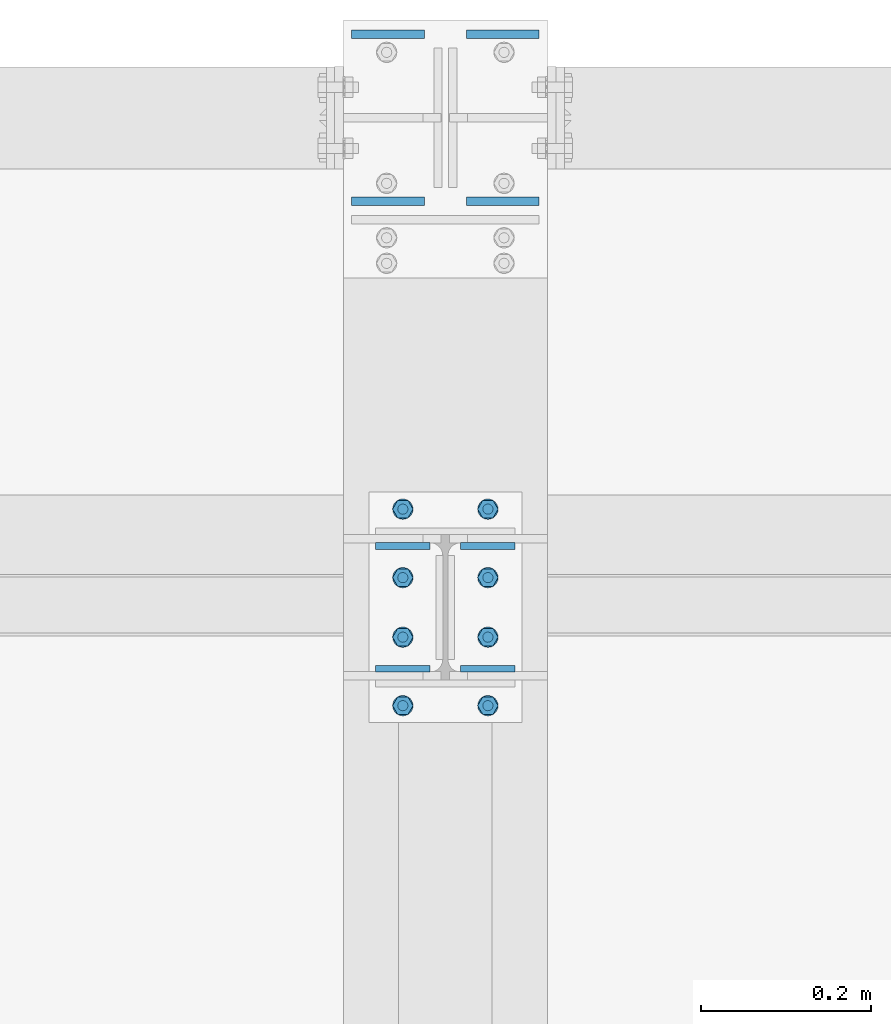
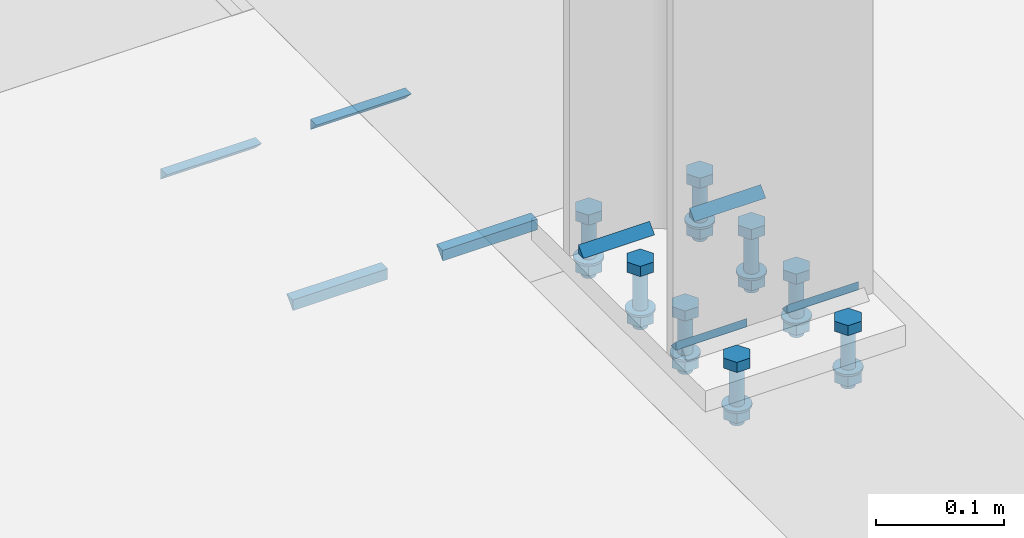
# One storey, part 47 of 66: 32 mechanical fasteners, 14 fasteners.
"""IFC4 building model written with IfcOpenShell, lengths in metres."""

from ifc_helpers import new_model, si_unit, frame, origin_with_axes, place, context, project, spatial, polyline, outline, extrude, type_object, element, save


model = new_model("IFC4")

# Units and contexts
model_context = context("Model", 3, precision=1e-05, world=origin_with_axes())
ifc_project = project(units=[si_unit("LENGTHUNIT", "METRE"), si_unit("AREAUNIT", "SQUARE_METRE"), si_unit("VOLUMEUNIT", "CUBIC_METRE"), si_unit("MASSUNIT", "GRAM", prefix="KILO"), si_unit("TIMEUNIT", "SECOND"), si_unit("PLANEANGLEUNIT", "RADIAN"), si_unit("SOLIDANGLEUNIT", "STERADIAN"), si_unit("THERMODYNAMICTEMPERATUREUNIT", "DEGREE_CELSIUS")], contexts=[model_context])

# Site, building, storey
placement_1 = place(None, origin_with_axes())
site = spatial("IfcSite", under=ifc_project, at=placement_1, Name="Italia", CompositionType="ELEMENT")
building = spatial("IfcBuilding", under=site, at=placement_1, Name="Uffici", CompositionType="ELEMENT")
storey_placement = place(None, frame((0.0, 0.0, 3.299999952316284), z_axis=(0.0, 0.0, 1.0), x_axis=(1.0, 0.0, 0.0)))
storey = spatial("IfcBuildingStorey", under=building, at=storey_placement, Name="Storey 1", CompositionType="ELEMENT", Elevation=3.299999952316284)

# Fasteners
fastener_type_1 = type_object("IfcFastenerType", Name="Collegamento 0108_0208", PredefinedType="WELD")
placement_2 = place(placement_1, origin_with_axes())
fastener_1_placement = place(placement_2, origin_with_axes())
element("IfcFastener", 1, at=fastener_1_placement, inside=storey, type_object=fastener_type_1, Name="Collegamento 0108_0208", context=model_context, shape_type="SweptSolid", body=[
    extrude(outline(polyline([(0.0, 0.0), (0.00792837, 0.00817347), (0.00792837, 0.0), (0.0, 0.0)])), frame((6.77295, 4.88262, 3.31995), z_axis=(1.0, 0.0, 0.0), x_axis=(0.0, 1.0, 0.0)), (0.0, 0.0, 1.0), 0.0641007),
])
fastener_type_2 = type_object("IfcFastenerType", Name="Collegamento 0108_0208", PredefinedType="WELD")
fastener_2_placement = place(placement_2, origin_with_axes())
element("IfcFastener", 2, at=fastener_2_placement, inside=storey, type_object=fastener_type_2, Name="Collegamento 0108_0208", context=model_context, shape_type="SweptSolid", body=[
    extrude(outline(polyline([(0.0, 0.0), (0.00792837, 0.00817347), (0.00792837, 0.0), (0.0, 0.0)])), frame((6.83705, 4.74638, 3.31995), z_axis=(-1.0, 0.0, 0.0), x_axis=(0.0, -1.0, 0.0)), (0.0, 0.0, 1.0), 0.0641007),
])
fastener_type_3 = type_object("IfcFastenerType", Name="Collegamento 0108_0208", PredefinedType="WELD")
fastener_3_placement = place(placement_2, origin_with_axes())
element("IfcFastener", 3, at=fastener_3_placement, inside=storey, type_object=fastener_type_3, Name="Collegamento 0108_0208", context=model_context, shape_type="SweptSolid", body=[
    extrude(outline(polyline([(0.0, 0.0), (0.00792837, 0.00817347), (0.00792837, 0.0), (0.0, 0.0)])), frame((6.73705, 4.74638, 3.31995), z_axis=(-1.0, 0.0, 0.0), x_axis=(0.0, -1.0, 0.0)), (0.0, 0.0, 1.0), 0.0641007),
])
fastener_type_4 = type_object("IfcFastenerType", Name="Collegamento 0108_0208", PredefinedType="WELD")
fastener_4_placement = place(placement_2, origin_with_axes())
element("IfcFastener", 4, at=fastener_4_placement, inside=storey, type_object=fastener_type_4, Name="Collegamento 0108_0208", context=model_context, shape_type="SweptSolid", body=[
    extrude(outline(polyline([(0.0, 0.0), (0.00792837, 0.00817347), (0.00792837, 0.0), (0.0, 0.0)])), frame((6.67295, 4.88262, 3.31995), z_axis=(1.0, 0.0, 0.0), x_axis=(0.0, 1.0, 0.0)), (0.0, 0.0, 1.0), 0.0641007),
])
fastener_type_5 = type_object("IfcFastenerType", Name="Collegamento 0108_0208", PredefinedType="WELD")
fastener_5_placement = place(placement_2, origin_with_axes())
element("IfcFastener", 5, at=fastener_5_placement, inside=storey, type_object=fastener_type_5, Name="Collegamento 0108_0208", context=model_context, shape_type="SweptSolid", body=[
    extrude(outline(polyline([(0.0, 0.0), (0.00792837, 0.00817347), (0.00792837, 0.0), (0.0, 0.0)])), frame((6.77295, 4.88262, 3.31995), z_axis=(1.0, 0.0, 0.0), x_axis=(0.0, 1.0, 0.0)), (0.0, 0.0, 1.0), 0.0641007),
])
fastener_type_6 = type_object("IfcFastenerType", Name="Collegamento 0108_0208", PredefinedType="WELD")
fastener_6_placement = place(placement_2, origin_with_axes())
element("IfcFastener", 6, at=fastener_6_placement, inside=storey, type_object=fastener_type_6, Name="Collegamento 0108_0208", context=model_context, shape_type="SweptSolid", body=[
    extrude(outline(polyline([(0.0, 0.0), (0.00792837, 0.00817347), (0.00792837, 0.0), (0.0, 0.0)])), frame((6.83705, 4.74638, 3.31995), z_axis=(-1.0, 0.0, 0.0), x_axis=(0.0, -1.0, 0.0)), (0.0, 0.0, 1.0), 0.0641007),
])
fastener_type_7 = type_object("IfcFastenerType", Name="Collegamento 0108_0208", PredefinedType="WELD")
fastener_7_placement = place(placement_2, origin_with_axes())
element("IfcFastener", 7, at=fastener_7_placement, inside=storey, type_object=fastener_type_7, Name="Collegamento 0108_0208", context=model_context, shape_type="SweptSolid", body=[
    extrude(outline(polyline([(0.0, 0.0), (0.00792837, 0.00817347), (0.00792837, 0.0), (0.0, 0.0)])), frame((6.73705, 4.74638, 3.31995), z_axis=(-1.0, 0.0, 0.0), x_axis=(0.0, -1.0, 0.0)), (0.0, 0.0, 1.0), 0.0641007),
])
fastener_type_8 = type_object("IfcFastenerType", Name="Collegamento 0108_0208", PredefinedType="WELD")
fastener_8_placement = place(placement_2, origin_with_axes())
element("IfcFastener", 8, at=fastener_8_placement, inside=storey, type_object=fastener_type_8, Name="Collegamento 0108_0208", context=model_context, shape_type="SweptSolid", body=[
    extrude(outline(polyline([(0.0, 0.0), (0.00792837, 0.00817347), (0.00792837, 0.0), (0.0, 0.0)])), frame((6.67295, 4.88262, 3.31995), z_axis=(1.0, 0.0, 0.0), x_axis=(0.0, 1.0, 0.0)), (0.0, 0.0, 1.0), 0.0641007),
])

# Mechanical fasteners
mechanical_fastener_type_1 = type_object("IfcMechanicalFastenerType", Name="Collegamento 0108_0208", PredefinedType="BOLT")
mechanical_fastener_1_placement = place(placement_2, origin_with_axes())
element("IfcMechanicalFastener", 9, at=mechanical_fastener_1_placement, inside=storey, type_object=mechanical_fastener_type_1, Name="Collegamento 0108_0208", NominalDiameter=0.0119997, context=model_context, shape_type="SweptSolid", body=[
    extrude(outline(polyline([(0.0, 0.0), (0.0, 0.0120001), (0.0103922, 0.0179996), (0.0207844, 0.0120001), (0.0207844, 0.0), (0.0103922, -0.00600004), (0.0, 0.0)])), frame((6.711, 4.91961, 3.32), z_axis=(0.0, 0.0, 1.0), x_axis=(0.0, 1.0, 0.0)), (0.0, 0.0, 1.0), 0.00959992),
])
mechanical_fastener_type_2 = type_object("IfcMechanicalFastenerType", Name="Collegamento 0108_0208", PredefinedType="BOLT")
mechanical_fastener_2_placement = place(placement_2, origin_with_axes())
element("IfcMechanicalFastener", 10, at=mechanical_fastener_2_placement, inside=storey, type_object=mechanical_fastener_type_2, Name="Collegamento 0108_0208", NominalDiameter=0.012, context=model_context, shape_type="SweptSolid", body=[
    extrude(outline(polyline([(0.0, 0.0), (-0.000204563, -0.00155306), (-0.000803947, -0.00299978), (-0.00175762, -0.00424242), (-0.00300026, -0.00519609), (-0.00444698, -0.00579548), (-0.00600004, -0.00600004), (-0.0075531, -0.00579548), (-0.00899982, -0.00519609), (-0.0102425, -0.00424242), (-0.0111961, -0.00299978), (-0.0117955, -0.00155306), (-0.0120001, 0.0), (-0.0117955, 0.00155306), (-0.0111961, 0.00299978), (-0.0102425, 0.00424242), (-0.00899982, 0.00519609), (-0.0075531, 0.00579548), (-0.00600004, 0.00600004), (-0.00444698, 0.00579548), (-0.00300026, 0.00519609), (-0.00175762, 0.00424242), (-0.000803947, 0.00299978), (-0.000204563, 0.00155306), (0.0, 0.0)])), frame((6.705, 4.936, 3.265), z_axis=(0.0, 0.0, 1.0), x_axis=(0.0, 1.0, 0.0)), (0.0, 0.0, 1.0), 0.0550001),
])
mechanical_fastener_type_3 = type_object("IfcMechanicalFastenerType", Name="Collegamento 0108_0208", PredefinedType="BOLT")
mechanical_fastener_3_placement = place(placement_2, origin_with_axes())
element("IfcMechanicalFastener", 11, at=mechanical_fastener_3_placement, inside=storey, type_object=mechanical_fastener_type_3, Name="Collegamento 0108_0208", NominalDiameter=0.0119997, context=model_context, shape_type="SweptSolid", body=[
    extrude(outline(polyline([(0.0, 0.0), (0.0, 0.0120001), (0.0103922, 0.0179996), (0.0207844, 0.0120001), (0.0207844, 0.0), (0.0103922, -0.00600004), (0.0, 0.0)])), frame((6.711, 4.91961, 3.2714), z_axis=(0.0, 0.0, 1.0), x_axis=(0.0, 1.0, 0.0)), (0.0, 0.0, 1.0), 0.00959992),
])
mechanical_fastener_type_4 = type_object("IfcMechanicalFastenerType", Name="Collegamento 0108_0208", PredefinedType="BOLT")
mechanical_fastener_4_placement = place(placement_2, origin_with_axes())
element("IfcMechanicalFastener", 12, at=mechanical_fastener_4_placement, inside=storey, type_object=mechanical_fastener_type_4, Name="Collegamento 0108_0208", NominalDiameter=0.024, context=model_context, shape_type="SweptSolid", body=[
    extrude(outline(polyline([(0.0, 0.0), (-0.000409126, -0.00310564), (-0.00160789, -0.00600004), (-0.00351477, -0.00848532), (-0.00600004, -0.0103922), (-0.00889444, -0.011591), (-0.0120001, -0.0120001), (-0.0151057, -0.011591), (-0.0180001, -0.0103922), (-0.0204854, -0.00848532), (-0.0223923, -0.00600004), (-0.023591, -0.00310564), (-0.0240002, 0.0), (-0.023591, 0.00310564), (-0.0223923, 0.00600004), (-0.0204854, 0.00848532), (-0.0180001, 0.0103922), (-0.0151057, 0.011591), (-0.0120001, 0.0120001), (-0.00889444, 0.011591), (-0.00600004, 0.0103922), (-0.00351477, 0.00848532), (-0.00160789, 0.00600004), (-0.000409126, 0.00310564), (0.0, 0.0)])), frame((6.705, 4.942, 3.281), z_axis=(0.0, 0.0, 1.0), x_axis=(0.0, 1.0, 0.0)), (0.0, 0.0, 1.0), 0.00200009),
])
mechanical_fastener_type_5 = type_object("IfcMechanicalFastenerType", Name="Collegamento 0108_0208", PredefinedType="BOLT")
mechanical_fastener_5_placement = place(placement_2, origin_with_axes())
element("IfcMechanicalFastener", 13, at=mechanical_fastener_5_placement, inside=storey, type_object=mechanical_fastener_type_5, Name="Collegamento 0108_0208", NominalDiameter=0.0119997, context=model_context, shape_type="SweptSolid", body=[
    extrude(outline(polyline([(0.0, 0.0), (0.0, 0.0120001), (0.0103922, 0.0180001), (0.0207844, 0.0120001), (0.0207844, 0.0), (0.0103922, -0.00599957), (0.0, 0.0)])), frame((6.811, 4.91961, 3.32), z_axis=(0.0, 0.0, 1.0), x_axis=(0.0, 1.0, 0.0)), (0.0, 0.0, 1.0), 0.00959992),
])
mechanical_fastener_type_6 = type_object("IfcMechanicalFastenerType", Name="Collegamento 0108_0208", PredefinedType="BOLT")
mechanical_fastener_6_placement = place(placement_2, origin_with_axes())
element("IfcMechanicalFastener", 14, at=mechanical_fastener_6_placement, inside=storey, type_object=mechanical_fastener_type_6, Name="Collegamento 0108_0208", NominalDiameter=0.012, context=model_context, shape_type="SweptSolid", body=[
    extrude(outline(polyline([(0.0, 0.0), (-0.000204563, -0.00155306), (-0.000803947, -0.00299978), (-0.00175762, -0.00424242), (-0.00300026, -0.00519609), (-0.00444698, -0.00579548), (-0.00600004, -0.00600004), (-0.0075531, -0.00579548), (-0.00899982, -0.00519609), (-0.0102425, -0.00424242), (-0.0111961, -0.00299978), (-0.0117955, -0.00155306), (-0.0120001, 0.0), (-0.0117955, 0.00155306), (-0.0111961, 0.00299978), (-0.0102425, 0.00424242), (-0.00899982, 0.00519609), (-0.0075531, 0.00579548), (-0.00600004, 0.00600004), (-0.00444698, 0.00579548), (-0.00300026, 0.00519609), (-0.00175762, 0.00424242), (-0.000803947, 0.00299978), (-0.000204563, 0.00155306), (0.0, 0.0)])), frame((6.805, 4.936, 3.265), z_axis=(0.0, 0.0, 1.0), x_axis=(0.0, 1.0, 0.0)), (0.0, 0.0, 1.0), 0.0550001),
])
mechanical_fastener_type_7 = type_object("IfcMechanicalFastenerType", Name="Collegamento 0108_0208", PredefinedType="BOLT")
mechanical_fastener_7_placement = place(placement_2, origin_with_axes())
element("IfcMechanicalFastener", 15, at=mechanical_fastener_7_placement, inside=storey, type_object=mechanical_fastener_type_7, Name="Collegamento 0108_0208", NominalDiameter=0.0119997, context=model_context, shape_type="SweptSolid", body=[
    extrude(outline(polyline([(0.0, 0.0), (0.0, 0.0120001), (0.0103922, 0.0180001), (0.0207844, 0.0120001), (0.0207844, 0.0), (0.0103922, -0.00599957), (0.0, 0.0)])), frame((6.811, 4.91961, 3.2714), z_axis=(0.0, 0.0, 1.0), x_axis=(0.0, 1.0, 0.0)), (0.0, 0.0, 1.0), 0.00959992),
])
mechanical_fastener_type_8 = type_object("IfcMechanicalFastenerType", Name="Collegamento 0108_0208", PredefinedType="BOLT")
mechanical_fastener_8_placement = place(placement_2, origin_with_axes())
element("IfcMechanicalFastener", 16, at=mechanical_fastener_8_placement, inside=storey, type_object=mechanical_fastener_type_8, Name="Collegamento 0108_0208", NominalDiameter=0.024, context=model_context, shape_type="SweptSolid", body=[
    extrude(outline(polyline([(0.0, 0.0), (-0.000409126, -0.00310564), (-0.00160789, -0.00600004), (-0.00351477, -0.00848532), (-0.00600004, -0.0103922), (-0.00889444, -0.011591), (-0.0120001, -0.0120001), (-0.0151057, -0.011591), (-0.0180001, -0.0103922), (-0.0204854, -0.00848532), (-0.0223923, -0.00600004), (-0.023591, -0.00310564), (-0.0240002, 0.0), (-0.023591, 0.00310564), (-0.0223923, 0.00600004), (-0.0204854, 0.00848532), (-0.0180001, 0.0103922), (-0.0151057, 0.011591), (-0.0120001, 0.0120001), (-0.00889444, 0.011591), (-0.00600004, 0.0103922), (-0.00351477, 0.00848532), (-0.00160789, 0.00600004), (-0.000409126, 0.00310564), (0.0, 0.0)])), frame((6.805, 4.942, 3.281), z_axis=(0.0, 0.0, 1.0), x_axis=(0.0, 1.0, 0.0)), (0.0, 0.0, 1.0), 0.00200009),
])
mechanical_fastener_type_9 = type_object("IfcMechanicalFastenerType", Name="Collegamento 0108_0208", PredefinedType="BOLT")
mechanical_fastener_9_placement = place(placement_2, origin_with_axes())
element("IfcMechanicalFastener", 17, at=mechanical_fastener_9_placement, inside=storey, type_object=mechanical_fastener_type_9, Name="Collegamento 0108_0208", NominalDiameter=0.0119997, context=model_context, shape_type="SweptSolid", body=[
    extrude(outline(polyline([(0.0, 0.0), (0.0, 0.0120001), (0.0103927, 0.0179996), (0.0207849, 0.0120001), (0.0207849, 0.0), (0.0103927, -0.00600004), (0.0, 0.0)])), frame((6.711, 4.76911, 3.32), z_axis=(0.0, 0.0, 1.0), x_axis=(0.0, 1.0, 0.0)), (0.0, 0.0, 1.0), 0.00959992),
])
mechanical_fastener_type_10 = type_object("IfcMechanicalFastenerType", Name="Collegamento 0108_0208", PredefinedType="BOLT")
mechanical_fastener_10_placement = place(placement_2, origin_with_axes())
element("IfcMechanicalFastener", 18, at=mechanical_fastener_10_placement, inside=storey, type_object=mechanical_fastener_type_10, Name="Collegamento 0108_0208", NominalDiameter=0.012, context=model_context, shape_type="SweptSolid", body=[
    extrude(outline(polyline([(0.0, 0.0), (-0.000204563, -0.00155306), (-0.000803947, -0.00299978), (-0.00175762, -0.00424242), (-0.00300026, -0.00519609), (-0.00444698, -0.00579548), (-0.00600004, -0.00600004), (-0.0075531, -0.00579548), (-0.00899982, -0.00519609), (-0.0102425, -0.00424242), (-0.0111961, -0.00299978), (-0.0117955, -0.00155306), (-0.0120001, 0.0), (-0.0117955, 0.00155306), (-0.0111961, 0.00299978), (-0.0102425, 0.00424242), (-0.00899982, 0.00519609), (-0.0075531, 0.00579548), (-0.00600004, 0.00600004), (-0.00444698, 0.00579548), (-0.00300026, 0.00519609), (-0.00175762, 0.00424242), (-0.000803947, 0.00299978), (-0.000204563, 0.00155306), (0.0, 0.0)])), frame((6.705, 4.7855, 3.265), z_axis=(0.0, 0.0, 1.0), x_axis=(0.0, 1.0, 0.0)), (0.0, 0.0, 1.0), 0.0550001),
])
mechanical_fastener_type_11 = type_object("IfcMechanicalFastenerType", Name="Collegamento 0108_0208", PredefinedType="BOLT")
mechanical_fastener_11_placement = place(placement_2, origin_with_axes())
element("IfcMechanicalFastener", 19, at=mechanical_fastener_11_placement, inside=storey, type_object=mechanical_fastener_type_11, Name="Collegamento 0108_0208", NominalDiameter=0.0119997, context=model_context, shape_type="SweptSolid", body=[
    extrude(outline(polyline([(0.0, 0.0), (0.0, 0.0120001), (0.0103927, 0.0179996), (0.0207849, 0.0120001), (0.0207849, 0.0), (0.0103927, -0.00600004), (0.0, 0.0)])), frame((6.711, 4.76911, 3.2714), z_axis=(0.0, 0.0, 1.0), x_axis=(0.0, 1.0, 0.0)), (0.0, 0.0, 1.0), 0.00959992),
])
mechanical_fastener_type_12 = type_object("IfcMechanicalFastenerType", Name="Collegamento 0108_0208", PredefinedType="BOLT")
mechanical_fastener_12_placement = place(placement_2, origin_with_axes())
element("IfcMechanicalFastener", 20, at=mechanical_fastener_12_placement, inside=storey, type_object=mechanical_fastener_type_12, Name="Collegamento 0108_0208", NominalDiameter=0.024, context=model_context, shape_type="SweptSolid", body=[
    extrude(outline(polyline([(0.0, 0.0), (-0.000409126, -0.00310564), (-0.00160789, -0.00600004), (-0.00351477, -0.00848532), (-0.00600004, -0.0103922), (-0.00889444, -0.011591), (-0.0120001, -0.0120001), (-0.0151057, -0.011591), (-0.0180001, -0.0103922), (-0.0204854, -0.00848532), (-0.0223923, -0.00600004), (-0.023591, -0.00310564), (-0.0240002, 0.0), (-0.023591, 0.00310564), (-0.0223923, 0.00600004), (-0.0204854, 0.00848532), (-0.0180001, 0.0103922), (-0.0151057, 0.011591), (-0.0120001, 0.0120001), (-0.00889444, 0.011591), (-0.00600004, 0.0103922), (-0.00351477, 0.00848532), (-0.00160789, 0.00600004), (-0.000409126, 0.00310564), (0.0, 0.0)])), frame((6.705, 4.7915, 3.281), z_axis=(0.0, 0.0, 1.0), x_axis=(0.0, 1.0, 0.0)), (0.0, 0.0, 1.0), 0.00200009),
])
mechanical_fastener_type_13 = type_object("IfcMechanicalFastenerType", Name="Collegamento 0108_0208", PredefinedType="BOLT")
mechanical_fastener_13_placement = place(placement_2, origin_with_axes())
element("IfcMechanicalFastener", 21, at=mechanical_fastener_13_placement, inside=storey, type_object=mechanical_fastener_type_13, Name="Collegamento 0108_0208", NominalDiameter=0.0119997, context=model_context, shape_type="SweptSolid", body=[
    extrude(outline(polyline([(0.0, 0.0), (0.0, 0.0120001), (0.0103927, 0.0180001), (0.0207849, 0.0120001), (0.0207849, 0.0), (0.0103927, -0.00599957), (0.0, 0.0)])), frame((6.811, 4.76911, 3.32), z_axis=(0.0, 0.0, 1.0), x_axis=(0.0, 1.0, 0.0)), (0.0, 0.0, 1.0), 0.00959992),
])
mechanical_fastener_type_14 = type_object("IfcMechanicalFastenerType", Name="Collegamento 0108_0208", PredefinedType="BOLT")
mechanical_fastener_14_placement = place(placement_2, origin_with_axes())
element("IfcMechanicalFastener", 22, at=mechanical_fastener_14_placement, inside=storey, type_object=mechanical_fastener_type_14, Name="Collegamento 0108_0208", NominalDiameter=0.012, context=model_context, shape_type="SweptSolid", body=[
    extrude(outline(polyline([(0.0, 0.0), (-0.000204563, -0.00155306), (-0.000803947, -0.00299978), (-0.00175762, -0.00424242), (-0.00300026, -0.00519609), (-0.00444698, -0.00579548), (-0.00600004, -0.00600004), (-0.0075531, -0.00579548), (-0.00899982, -0.00519609), (-0.0102425, -0.00424242), (-0.0111961, -0.00299978), (-0.0117955, -0.00155306), (-0.0120001, 0.0), (-0.0117955, 0.00155306), (-0.0111961, 0.00299978), (-0.0102425, 0.00424242), (-0.00899982, 0.00519609), (-0.0075531, 0.00579548), (-0.00600004, 0.00600004), (-0.00444698, 0.00579548), (-0.00300026, 0.00519609), (-0.00175762, 0.00424242), (-0.000803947, 0.00299978), (-0.000204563, 0.00155306), (0.0, 0.0)])), frame((6.805, 4.7855, 3.265), z_axis=(0.0, 0.0, 1.0), x_axis=(0.0, 1.0, 0.0)), (0.0, 0.0, 1.0), 0.0550001),
])
mechanical_fastener_type_15 = type_object("IfcMechanicalFastenerType", Name="Collegamento 0108_0208", PredefinedType="BOLT")
mechanical_fastener_15_placement = place(placement_2, origin_with_axes())
element("IfcMechanicalFastener", 23, at=mechanical_fastener_15_placement, inside=storey, type_object=mechanical_fastener_type_15, Name="Collegamento 0108_0208", NominalDiameter=0.0119997, context=model_context, shape_type="SweptSolid", body=[
    extrude(outline(polyline([(0.0, 0.0), (0.0, 0.0120001), (0.0103927, 0.0180001), (0.0207849, 0.0120001), (0.0207849, 0.0), (0.0103927, -0.00599957), (0.0, 0.0)])), frame((6.811, 4.76911, 3.2714), z_axis=(0.0, 0.0, 1.0), x_axis=(0.0, 1.0, 0.0)), (0.0, 0.0, 1.0), 0.00959992),
])
mechanical_fastener_type_16 = type_object("IfcMechanicalFastenerType", Name="Collegamento 0108_0208", PredefinedType="BOLT")
mechanical_fastener_16_placement = place(placement_2, origin_with_axes())
element("IfcMechanicalFastener", 24, at=mechanical_fastener_16_placement, inside=storey, type_object=mechanical_fastener_type_16, Name="Collegamento 0108_0208", NominalDiameter=0.024, context=model_context, shape_type="SweptSolid", body=[
    extrude(outline(polyline([(0.0, 0.0), (-0.000409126, -0.00310564), (-0.00160789, -0.00600004), (-0.00351477, -0.00848532), (-0.00600004, -0.0103922), (-0.00889444, -0.011591), (-0.0120001, -0.0120001), (-0.0151057, -0.011591), (-0.0180001, -0.0103922), (-0.0204854, -0.00848532), (-0.0223923, -0.00600004), (-0.023591, -0.00310564), (-0.0240002, 0.0), (-0.023591, 0.00310564), (-0.0223923, 0.00600004), (-0.0204854, 0.00848532), (-0.0180001, 0.0103922), (-0.0151057, 0.011591), (-0.0120001, 0.0120001), (-0.00889444, 0.011591), (-0.00600004, 0.0103922), (-0.00351477, 0.00848532), (-0.00160789, 0.00600004), (-0.000409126, 0.00310564), (0.0, 0.0)])), frame((6.805, 4.7915, 3.281), z_axis=(0.0, 0.0, 1.0), x_axis=(0.0, 1.0, 0.0)), (0.0, 0.0, 1.0), 0.00200009),
])
mechanical_fastener_type_17 = type_object("IfcMechanicalFastenerType", Name="Collegamento 0108_0208", PredefinedType="BOLT")
mechanical_fastener_17_placement = place(placement_2, origin_with_axes())
element("IfcMechanicalFastener", 25, at=mechanical_fastener_17_placement, inside=storey, type_object=mechanical_fastener_type_17, Name="Collegamento 0108_0208", NominalDiameter=0.0119997, context=model_context, shape_type="SweptSolid", body=[
    extrude(outline(polyline([(0.0, 0.0), (0.0, 0.0120001), (0.0103922, 0.0179996), (0.0207849, 0.0120001), (0.0207849, 0.0), (0.0103922, -0.00600004), (0.0, 0.0)])), frame((6.711, 4.83911, 3.32), z_axis=(0.0, 0.0, 1.0), x_axis=(0.0, 1.0, 0.0)), (0.0, 0.0, 1.0), 0.00959992),
])
mechanical_fastener_type_18 = type_object("IfcMechanicalFastenerType", Name="Collegamento 0108_0208", PredefinedType="BOLT")
mechanical_fastener_18_placement = place(placement_2, origin_with_axes())
element("IfcMechanicalFastener", 26, at=mechanical_fastener_18_placement, inside=storey, type_object=mechanical_fastener_type_18, Name="Collegamento 0108_0208", NominalDiameter=0.012, context=model_context, shape_type="SweptSolid", body=[
    extrude(outline(polyline([(0.0, 0.0), (-0.000204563, -0.00155306), (-0.000803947, -0.00299978), (-0.00175762, -0.00424242), (-0.00300026, -0.00519609), (-0.00444698, -0.00579548), (-0.00600004, -0.00600004), (-0.0075531, -0.00579548), (-0.00899982, -0.00519609), (-0.0102425, -0.00424242), (-0.0111961, -0.00299978), (-0.0117955, -0.00155306), (-0.0120001, 0.0), (-0.0117955, 0.00155306), (-0.0111961, 0.00299978), (-0.0102425, 0.00424242), (-0.00899982, 0.00519609), (-0.0075531, 0.00579548), (-0.00600004, 0.00600004), (-0.00444698, 0.00579548), (-0.00300026, 0.00519609), (-0.00175762, 0.00424242), (-0.000803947, 0.00299978), (-0.000204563, 0.00155306), (0.0, 0.0)])), frame((6.705, 4.8555, 3.265), z_axis=(0.0, 0.0, 1.0), x_axis=(0.0, 1.0, 0.0)), (0.0, 0.0, 1.0), 0.0550001),
])
mechanical_fastener_type_19 = type_object("IfcMechanicalFastenerType", Name="Collegamento 0108_0208", PredefinedType="BOLT")
mechanical_fastener_19_placement = place(placement_2, origin_with_axes())
element("IfcMechanicalFastener", 27, at=mechanical_fastener_19_placement, inside=storey, type_object=mechanical_fastener_type_19, Name="Collegamento 0108_0208", NominalDiameter=0.0119997, context=model_context, shape_type="SweptSolid", body=[
    extrude(outline(polyline([(0.0, 0.0), (0.0, 0.0120001), (0.0103922, 0.0179996), (0.0207849, 0.0120001), (0.0207849, 0.0), (0.0103922, -0.00600004), (0.0, 0.0)])), frame((6.711, 4.83911, 3.2714), z_axis=(0.0, 0.0, 1.0), x_axis=(0.0, 1.0, 0.0)), (0.0, 0.0, 1.0), 0.00959992),
])
mechanical_fastener_type_20 = type_object("IfcMechanicalFastenerType", Name="Collegamento 0108_0208", PredefinedType="BOLT")
mechanical_fastener_20_placement = place(placement_2, origin_with_axes())
element("IfcMechanicalFastener", 28, at=mechanical_fastener_20_placement, inside=storey, type_object=mechanical_fastener_type_20, Name="Collegamento 0108_0208", NominalDiameter=0.024, context=model_context, shape_type="SweptSolid", body=[
    extrude(outline(polyline([(0.0, 0.0), (-0.000409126, -0.00310564), (-0.00160789, -0.00600004), (-0.00351477, -0.00848532), (-0.00600004, -0.0103922), (-0.00889444, -0.011591), (-0.0120001, -0.0120001), (-0.0151057, -0.011591), (-0.0180001, -0.0103922), (-0.0204854, -0.00848532), (-0.0223923, -0.00600004), (-0.023591, -0.00310564), (-0.0240002, 0.0), (-0.023591, 0.00310564), (-0.0223923, 0.00600004), (-0.0204854, 0.00848532), (-0.0180001, 0.0103922), (-0.0151057, 0.011591), (-0.0120001, 0.0120001), (-0.00889444, 0.011591), (-0.00600004, 0.0103922), (-0.00351477, 0.00848532), (-0.00160789, 0.00600004), (-0.000409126, 0.00310564), (0.0, 0.0)])), frame((6.705, 4.8615, 3.281), z_axis=(0.0, 0.0, 1.0), x_axis=(0.0, 1.0, 0.0)), (0.0, 0.0, 1.0), 0.00200009),
])
mechanical_fastener_type_21 = type_object("IfcMechanicalFastenerType", Name="Collegamento 0108_0208", PredefinedType="BOLT")
mechanical_fastener_21_placement = place(placement_2, origin_with_axes())
element("IfcMechanicalFastener", 29, at=mechanical_fastener_21_placement, inside=storey, type_object=mechanical_fastener_type_21, Name="Collegamento 0108_0208", NominalDiameter=0.0119997, context=model_context, shape_type="SweptSolid", body=[
    extrude(outline(polyline([(0.0, 0.0), (0.0, 0.0120001), (0.0103922, 0.0180001), (0.0207849, 0.0120001), (0.0207849, 0.0), (0.0103922, -0.00599957), (0.0, 0.0)])), frame((6.811, 4.83911, 3.32), z_axis=(0.0, 0.0, 1.0), x_axis=(0.0, 1.0, 0.0)), (0.0, 0.0, 1.0), 0.00959992),
])
mechanical_fastener_type_22 = type_object("IfcMechanicalFastenerType", Name="Collegamento 0108_0208", PredefinedType="BOLT")
mechanical_fastener_22_placement = place(placement_2, origin_with_axes())
element("IfcMechanicalFastener", 30, at=mechanical_fastener_22_placement, inside=storey, type_object=mechanical_fastener_type_22, Name="Collegamento 0108_0208", NominalDiameter=0.012, context=model_context, shape_type="SweptSolid", body=[
    extrude(outline(polyline([(0.0, 0.0), (-0.000204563, -0.00155306), (-0.000803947, -0.00299978), (-0.00175762, -0.00424242), (-0.00300026, -0.00519609), (-0.00444698, -0.00579548), (-0.00600004, -0.00600004), (-0.0075531, -0.00579548), (-0.00899982, -0.00519609), (-0.0102425, -0.00424242), (-0.0111961, -0.00299978), (-0.0117955, -0.00155306), (-0.0120001, 0.0), (-0.0117955, 0.00155306), (-0.0111961, 0.00299978), (-0.0102425, 0.00424242), (-0.00899982, 0.00519609), (-0.0075531, 0.00579548), (-0.00600004, 0.00600004), (-0.00444698, 0.00579548), (-0.00300026, 0.00519609), (-0.00175762, 0.00424242), (-0.000803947, 0.00299978), (-0.000204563, 0.00155306), (0.0, 0.0)])), frame((6.805, 4.8555, 3.265), z_axis=(0.0, 0.0, 1.0), x_axis=(0.0, 1.0, 0.0)), (0.0, 0.0, 1.0), 0.0550001),
])
mechanical_fastener_type_23 = type_object("IfcMechanicalFastenerType", Name="Collegamento 0108_0208", PredefinedType="BOLT")
mechanical_fastener_23_placement = place(placement_2, origin_with_axes())
element("IfcMechanicalFastener", 31, at=mechanical_fastener_23_placement, inside=storey, type_object=mechanical_fastener_type_23, Name="Collegamento 0108_0208", NominalDiameter=0.0119997, context=model_context, shape_type="SweptSolid", body=[
    extrude(outline(polyline([(0.0, 0.0), (0.0, 0.0120001), (0.0103922, 0.0180001), (0.0207849, 0.0120001), (0.0207849, 0.0), (0.0103922, -0.00599957), (0.0, 0.0)])), frame((6.811, 4.83911, 3.2714), z_axis=(0.0, 0.0, 1.0), x_axis=(0.0, 1.0, 0.0)), (0.0, 0.0, 1.0), 0.00959992),
])
mechanical_fastener_type_24 = type_object("IfcMechanicalFastenerType", Name="Collegamento 0108_0208", PredefinedType="BOLT")
mechanical_fastener_24_placement = place(placement_2, origin_with_axes())
element("IfcMechanicalFastener", 32, at=mechanical_fastener_24_placement, inside=storey, type_object=mechanical_fastener_type_24, Name="Collegamento 0108_0208", NominalDiameter=0.024, context=model_context, shape_type="SweptSolid", body=[
    extrude(outline(polyline([(0.0, 0.0), (-0.000409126, -0.00310564), (-0.00160789, -0.00600004), (-0.00351477, -0.00848532), (-0.00600004, -0.0103922), (-0.00889444, -0.011591), (-0.0120001, -0.0120001), (-0.0151057, -0.011591), (-0.0180001, -0.0103922), (-0.0204854, -0.00848532), (-0.0223923, -0.00600004), (-0.023591, -0.00310564), (-0.0240002, 0.0), (-0.023591, 0.00310564), (-0.0223923, 0.00600004), (-0.0204854, 0.00848532), (-0.0180001, 0.0103922), (-0.0151057, 0.011591), (-0.0120001, 0.0120001), (-0.00889444, 0.011591), (-0.00600004, 0.0103922), (-0.00351477, 0.00848532), (-0.00160789, 0.00600004), (-0.000409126, 0.00310564), (0.0, 0.0)])), frame((6.805, 4.8615, 3.281), z_axis=(0.0, 0.0, 1.0), x_axis=(0.0, 1.0, 0.0)), (0.0, 0.0, 1.0), 0.00200009),
])
mechanical_fastener_type_25 = type_object("IfcMechanicalFastenerType", Name="Collegamento 0108_0208", PredefinedType="BOLT")
mechanical_fastener_25_placement = place(placement_2, origin_with_axes())
element("IfcMechanicalFastener", 33, at=mechanical_fastener_25_placement, inside=storey, type_object=mechanical_fastener_type_25, Name="Collegamento 0108_0208", NominalDiameter=0.0119997, context=model_context, shape_type="SweptSolid", body=[
    extrude(outline(polyline([(0.0, 0.0), (0.0, 0.0120001), (0.0103922, 0.0179996), (0.0207844, 0.0120001), (0.0207844, 0.0), (0.0103922, -0.00600004), (0.0, 0.0)])), frame((6.711, 4.68861, 3.32), z_axis=(0.0, 0.0, 1.0), x_axis=(0.0, 1.0, 0.0)), (0.0, 0.0, 1.0), 0.00959992),
])
mechanical_fastener_type_26 = type_object("IfcMechanicalFastenerType", Name="Collegamento 0108_0208", PredefinedType="BOLT")
mechanical_fastener_26_placement = place(placement_2, origin_with_axes())
element("IfcMechanicalFastener", 34, at=mechanical_fastener_26_placement, inside=storey, type_object=mechanical_fastener_type_26, Name="Collegamento 0108_0208", NominalDiameter=0.012, context=model_context, shape_type="SweptSolid", body=[
    extrude(outline(polyline([(0.0, 0.0), (-0.000204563, -0.00155306), (-0.000803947, -0.00299978), (-0.00175762, -0.00424242), (-0.00300026, -0.00519609), (-0.00444698, -0.00579548), (-0.00600004, -0.00600004), (-0.0075531, -0.00579548), (-0.00899982, -0.00519609), (-0.0102425, -0.00424242), (-0.0111961, -0.00299978), (-0.0117955, -0.00155306), (-0.0120001, 0.0), (-0.0117955, 0.00155306), (-0.0111961, 0.00299978), (-0.0102425, 0.00424242), (-0.00899982, 0.00519609), (-0.0075531, 0.00579548), (-0.00600004, 0.00600004), (-0.00444698, 0.00579548), (-0.00300026, 0.00519609), (-0.00175762, 0.00424242), (-0.000803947, 0.00299978), (-0.000204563, 0.00155306), (0.0, 0.0)])), frame((6.705, 4.705, 3.265), z_axis=(0.0, 0.0, 1.0), x_axis=(0.0, 1.0, 0.0)), (0.0, 0.0, 1.0), 0.0550001),
])
mechanical_fastener_type_27 = type_object("IfcMechanicalFastenerType", Name="Collegamento 0108_0208", PredefinedType="BOLT")
mechanical_fastener_27_placement = place(placement_2, origin_with_axes())
element("IfcMechanicalFastener", 35, at=mechanical_fastener_27_placement, inside=storey, type_object=mechanical_fastener_type_27, Name="Collegamento 0108_0208", NominalDiameter=0.0119997, context=model_context, shape_type="SweptSolid", body=[
    extrude(outline(polyline([(0.0, 0.0), (0.0, 0.0120001), (0.0103922, 0.0179996), (0.0207844, 0.0120001), (0.0207844, 0.0), (0.0103922, -0.00600004), (0.0, 0.0)])), frame((6.711, 4.68861, 3.2714), z_axis=(0.0, 0.0, 1.0), x_axis=(0.0, 1.0, 0.0)), (0.0, 0.0, 1.0), 0.00959992),
])
mechanical_fastener_type_28 = type_object("IfcMechanicalFastenerType", Name="Collegamento 0108_0208", PredefinedType="BOLT")
mechanical_fastener_28_placement = place(placement_2, origin_with_axes())
element("IfcMechanicalFastener", 36, at=mechanical_fastener_28_placement, inside=storey, type_object=mechanical_fastener_type_28, Name="Collegamento 0108_0208", NominalDiameter=0.024, context=model_context, shape_type="SweptSolid", body=[
    extrude(outline(polyline([(0.0, 0.0), (-0.000409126, -0.00310564), (-0.00160789, -0.00600004), (-0.00351477, -0.00848532), (-0.00600004, -0.0103922), (-0.00889444, -0.011591), (-0.0120001, -0.0120001), (-0.0151057, -0.011591), (-0.0180001, -0.0103922), (-0.0204854, -0.00848532), (-0.0223923, -0.00600004), (-0.023591, -0.00310564), (-0.0240002, 0.0), (-0.023591, 0.00310564), (-0.0223923, 0.00600004), (-0.0204854, 0.00848532), (-0.0180001, 0.0103922), (-0.0151057, 0.011591), (-0.0120001, 0.0120001), (-0.00889444, 0.011591), (-0.00600004, 0.0103922), (-0.00351477, 0.00848532), (-0.00160789, 0.00600004), (-0.000409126, 0.00310564), (0.0, 0.0)])), frame((6.705, 4.711, 3.281), z_axis=(0.0, 0.0, 1.0), x_axis=(0.0, 1.0, 0.0)), (0.0, 0.0, 1.0), 0.00200009),
])
mechanical_fastener_type_29 = type_object("IfcMechanicalFastenerType", Name="Collegamento 0108_0208", PredefinedType="BOLT")
mechanical_fastener_29_placement = place(placement_2, origin_with_axes())
element("IfcMechanicalFastener", 37, at=mechanical_fastener_29_placement, inside=storey, type_object=mechanical_fastener_type_29, Name="Collegamento 0108_0208", NominalDiameter=0.0119997, context=model_context, shape_type="SweptSolid", body=[
    extrude(outline(polyline([(0.0, 0.0), (0.0, 0.0120001), (0.0103922, 0.0180001), (0.0207844, 0.0120001), (0.0207844, 0.0), (0.0103922, -0.00599957), (0.0, 0.0)])), frame((6.811, 4.68861, 3.32), z_axis=(0.0, 0.0, 1.0), x_axis=(0.0, 1.0, 0.0)), (0.0, 0.0, 1.0), 0.00959992),
])
mechanical_fastener_type_30 = type_object("IfcMechanicalFastenerType", Name="Collegamento 0108_0208", PredefinedType="BOLT")
mechanical_fastener_30_placement = place(placement_2, origin_with_axes())
element("IfcMechanicalFastener", 38, at=mechanical_fastener_30_placement, inside=storey, type_object=mechanical_fastener_type_30, Name="Collegamento 0108_0208", NominalDiameter=0.012, context=model_context, shape_type="SweptSolid", body=[
    extrude(outline(polyline([(0.0, 0.0), (-0.000204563, -0.00155306), (-0.000803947, -0.00299978), (-0.00175762, -0.00424242), (-0.00300026, -0.00519609), (-0.00444698, -0.00579548), (-0.00600004, -0.00600004), (-0.0075531, -0.00579548), (-0.00899982, -0.00519609), (-0.0102425, -0.00424242), (-0.0111961, -0.00299978), (-0.0117955, -0.00155306), (-0.0120001, 0.0), (-0.0117955, 0.00155306), (-0.0111961, 0.00299978), (-0.0102425, 0.00424242), (-0.00899982, 0.00519609), (-0.0075531, 0.00579548), (-0.00600004, 0.00600004), (-0.00444698, 0.00579548), (-0.00300026, 0.00519609), (-0.00175762, 0.00424242), (-0.000803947, 0.00299978), (-0.000204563, 0.00155306), (0.0, 0.0)])), frame((6.805, 4.705, 3.265), z_axis=(0.0, 0.0, 1.0), x_axis=(0.0, 1.0, 0.0)), (0.0, 0.0, 1.0), 0.0550001),
])
mechanical_fastener_type_31 = type_object("IfcMechanicalFastenerType", Name="Collegamento 0108_0208", PredefinedType="BOLT")
mechanical_fastener_31_placement = place(placement_2, origin_with_axes())
element("IfcMechanicalFastener", 39, at=mechanical_fastener_31_placement, inside=storey, type_object=mechanical_fastener_type_31, Name="Collegamento 0108_0208", NominalDiameter=0.0119997, context=model_context, shape_type="SweptSolid", body=[
    extrude(outline(polyline([(0.0, 0.0), (0.0, 0.0120001), (0.0103922, 0.0180001), (0.0207844, 0.0120001), (0.0207844, 0.0), (0.0103922, -0.00599957), (0.0, 0.0)])), frame((6.811, 4.68861, 3.2714), z_axis=(0.0, 0.0, 1.0), x_axis=(0.0, 1.0, 0.0)), (0.0, 0.0, 1.0), 0.00959992),
])
mechanical_fastener_type_32 = type_object("IfcMechanicalFastenerType", Name="Collegamento 0108_0208", PredefinedType="BOLT")
mechanical_fastener_32_placement = place(placement_2, origin_with_axes())
element("IfcMechanicalFastener", 40, at=mechanical_fastener_32_placement, inside=storey, type_object=mechanical_fastener_type_32, Name="Collegamento 0108_0208", NominalDiameter=0.024, context=model_context, shape_type="SweptSolid", body=[
    extrude(outline(polyline([(0.0, 0.0), (-0.000409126, -0.00310564), (-0.00160789, -0.00600004), (-0.00351477, -0.00848532), (-0.00600004, -0.0103922), (-0.00889444, -0.011591), (-0.0120001, -0.0120001), (-0.0151057, -0.011591), (-0.0180001, -0.0103922), (-0.0204854, -0.00848532), (-0.0223923, -0.00600004), (-0.023591, -0.00310564), (-0.0240002, 0.0), (-0.023591, 0.00310564), (-0.0223923, 0.00600004), (-0.0204854, 0.00848532), (-0.0180001, 0.0103922), (-0.0151057, 0.011591), (-0.0120001, 0.0120001), (-0.00889444, 0.011591), (-0.00600004, 0.0103922), (-0.00351477, 0.00848532), (-0.00160789, 0.00600004), (-0.000409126, 0.00310564), (0.0, 0.0)])), frame((6.805, 4.711, 3.281), z_axis=(0.0, 0.0, 1.0), x_axis=(0.0, 1.0, 0.0)), (0.0, 0.0, 1.0), 0.00200009),
])

# Fasteners
fastener_type_9 = type_object("IfcFastenerType", Name="Collegamenti 0111_0011 0112_0012 0113_0013 0114_0014 0115_0015", PredefinedType="WELD")
fastener_9_placement = place(placement_2, origin_with_axes())
element("IfcFastener", 41, at=fastener_9_placement, inside=storey, type_object=fastener_type_9, Name="Collegamenti 0111_0011 0112_0012 0113_0013 0114_0014 0115_0015", context=model_context, shape_type="SweptSolid", body=[
    extrude(outline(polyline([(0.0, 0.0), (-0.00986814, -0.0101733), (-0.00986814, 0.0), (0.0, 0.0)])), frame((6.86505, 5.48318, 3.04505), z_axis=(-1.0, 0.0, 0.0), x_axis=(0.0, -1.0, 0.0)), (0.0, 0.0, 1.0), 0.08535),
])
fastener_type_10 = type_object("IfcFastenerType", Name="Collegamenti 0111_0011 0112_0012 0113_0013 0114_0014 0115_0015", PredefinedType="WELD")
fastener_10_placement = place(placement_2, origin_with_axes())
element("IfcFastener", 42, at=fastener_10_placement, inside=storey, type_object=fastener_type_10, Name="Collegamenti 0111_0011 0112_0012 0113_0013 0114_0014 0115_0015", context=model_context, shape_type="SweptSolid", body=[
    extrude(outline(polyline([(0.0, 0.0), (-0.00986814, -0.0101733), (-0.00986814, 0.0), (0.0, 0.0)])), frame((6.7797, 5.29682, 3.04505), z_axis=(1.0, 0.0, 0.0), x_axis=(0.0, 1.0, 0.0)), (0.0, 0.0, 1.0), 0.08535),
])
fastener_type_11 = type_object("IfcFastenerType", Name="Collegamenti 0111_0011 0112_0012 0113_0013 0114_0014 0115_0015", PredefinedType="WELD")
fastener_11_placement = place(placement_2, origin_with_axes())
element("IfcFastener", 43, at=fastener_11_placement, inside=storey, type_object=fastener_type_11, Name="Collegamenti 0111_0011 0112_0012 0113_0013 0114_0014 0115_0015", context=model_context, shape_type="SweptSolid", body=[
    extrude(outline(polyline([(0.0, 0.0), (-0.00986814, -0.0101733), (-0.00986814, 0.0), (0.0, 0.0)])), frame((6.64495, 5.29682, 3.04505), z_axis=(1.0, 0.0, 0.0), x_axis=(0.0, 1.0, 0.0)), (0.0, 0.0, 1.0), 0.08535),
])
fastener_type_12 = type_object("IfcFastenerType", Name="Collegamenti 0111_0011 0112_0012 0113_0013 0114_0014 0115_0015", PredefinedType="WELD")
fastener_12_placement = place(placement_2, origin_with_axes())
element("IfcFastener", 44, at=fastener_12_placement, inside=storey, type_object=fastener_type_12, Name="Collegamenti 0111_0011 0112_0012 0113_0013 0114_0014 0115_0015", context=model_context, shape_type="SweptSolid", body=[
    extrude(outline(polyline([(0.0, 0.0), (-0.00986814, -0.0101733), (-0.00986814, 0.0), (0.0, 0.0)])), frame((6.7303, 5.48318, 3.04505), z_axis=(-1.0, 0.0, 0.0), x_axis=(0.0, -1.0, 0.0)), (0.0, 0.0, 1.0), 0.08535),
])
fastener_type_13 = type_object("IfcFastenerType", Name="Collegamenti 0111_0011 0112_0012 0113_0013 0114_0014 0115_0015", PredefinedType="WELD")
fastener_13_placement = place(placement_2, origin_with_axes())
element("IfcFastener", 45, at=fastener_13_placement, inside=storey, type_object=fastener_type_13, Name="Collegamenti 0111_0011 0112_0012 0113_0013 0114_0014 0115_0015", context=model_context, shape_type="SweptSolid", body=[
    extrude(outline(polyline([(0.0, 0.0), (-0.00986814, -0.0101733), (-0.00986814, 0.0), (0.0, 0.0)])), frame((6.86505, 5.48318, 3.04505), z_axis=(-1.0, 0.0, 0.0), x_axis=(0.0, -1.0, 0.0)), (0.0, 0.0, 1.0), 0.08535),
])
fastener_type_14 = type_object("IfcFastenerType", Name="Collegamenti 0111_0011 0112_0012 0113_0013 0114_0014 0115_0015", PredefinedType="WELD")
fastener_14_placement = place(placement_2, origin_with_axes())
element("IfcFastener", 46, at=fastener_14_placement, inside=storey, type_object=fastener_type_14, Name="Collegamenti 0111_0011 0112_0012 0113_0013 0114_0014 0115_0015", context=model_context, shape_type="SweptSolid", body=[
    extrude(outline(polyline([(0.0, 0.0), (-0.00986814, -0.0101733), (-0.00986814, 0.0), (0.0, 0.0)])), frame((6.7797, 5.29682, 3.04505), z_axis=(1.0, 0.0, 0.0), x_axis=(0.0, 1.0, 0.0)), (0.0, 0.0, 1.0), 0.08535),
])

save(model, "model.ifc")
